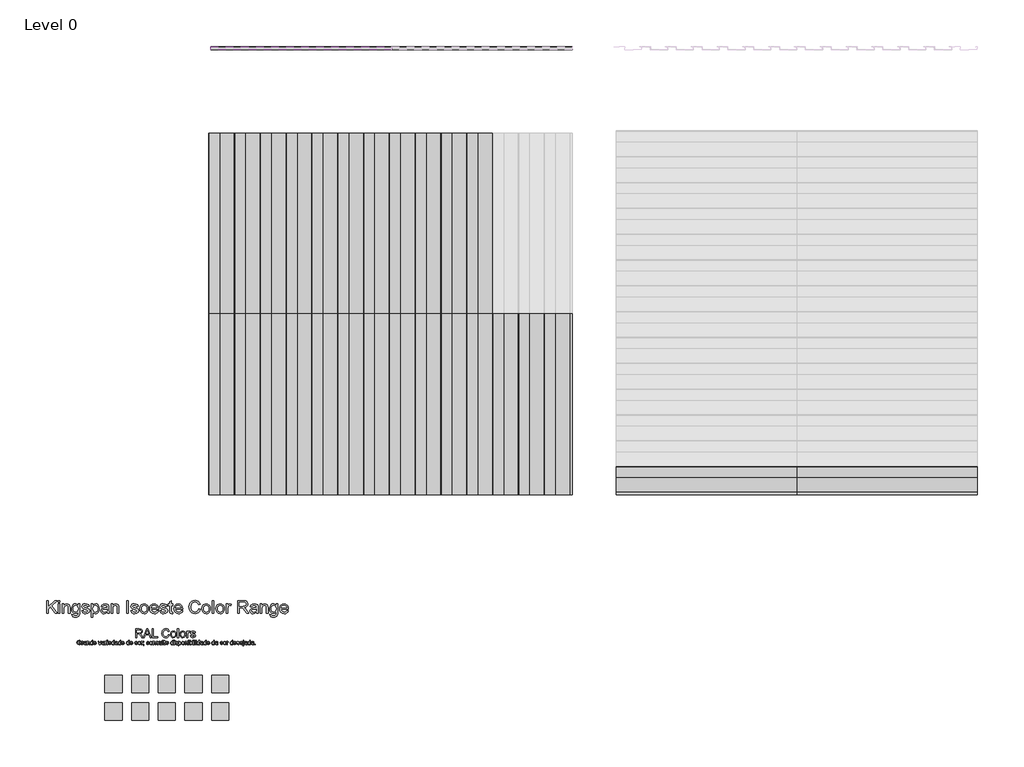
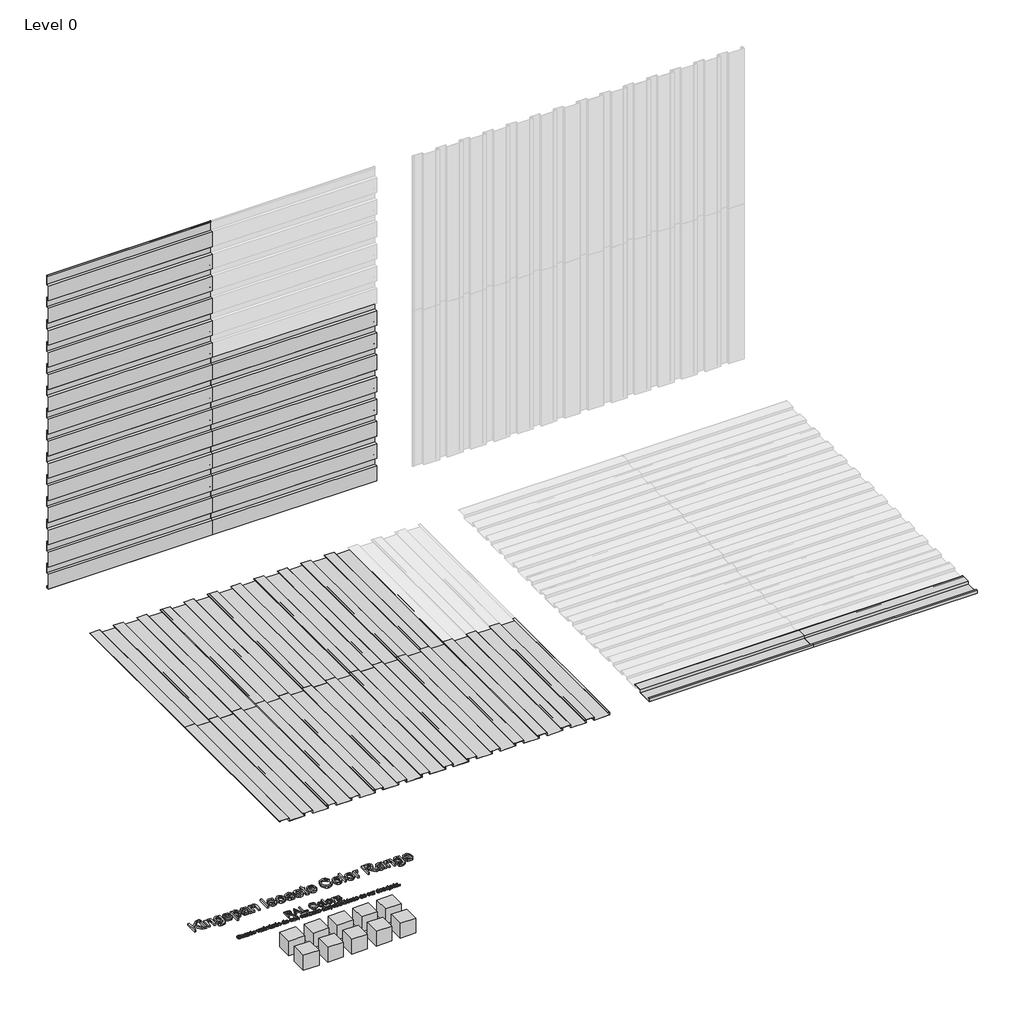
# One storey, part 1 of 2: 60 proxies.
"""IFC4 building model written with IfcOpenShell, lengths in millimetres."""

from ifc_helpers import new_model, si_unit, origin, place, context, project, spatial, transform, mapped, element, save
from components import proxy_32_ks_iso_colour_range_8220f766, proxy_32_ks_iso_colour_range_06d69407, ks_colour_sample_ks_colour_sample_0243efec, mx9_0_standard_panel_ns_4979d104, mx9_0_standard_panel_ns_2f6deb61

model = new_model("IFC4")

# Units and contexts
model_context = context("Model", 3, world=origin())
ifc_project = project(units=[si_unit("LENGTHUNIT", "METRE", prefix="MILLI")], contexts=[model_context])

# Site, building, storey
site = spatial("IfcSite", under=ifc_project)
building = spatial("IfcBuilding", under=site)
storey = spatial("IfcBuildingStorey", under=building, Name="Level 0", Elevation=0.0)

# Proxies
placement = place(None, origin())
proxy_32_ks_iso_colour_range_shape = proxy_32_ks_iso_colour_range_8220f766(model_context)
proxy_32_ks_iso_colour_range_2_shape = proxy_32_ks_iso_colour_range_06d69407(model_context)
element("IfcBuildingElementProxy", 1, Name="32-KS-ISO-Colour Range : Kingspan Isoeste Color Range", ObjectType="32-KS-ISO-Colour Range : Kingspan Isoeste Color Range", at=placement, inside=storey, context=model_context, shape_type="MappedRepresentation", body=[
    mapped(proxy_32_ks_iso_colour_range_shape, transform((-3929.8390717, -2223.0925896, 0.0), x_axis=(1.0, 0.0, 0.0), y_axis=(0.0, 1.0, 0.0), z_axis=(0.0, 0.0, 1.0))),
    mapped(proxy_32_ks_iso_colour_range_2_shape, transform((-3929.8390717, -2223.0925896, 0.0), x_axis=(1.0, 0.0, 0.0), y_axis=(0.0, 1.0, 0.0), z_axis=(0.0, 0.0, 1.0))),
])
ks_colour_sample_ks_colour_sample_shape = ks_colour_sample_ks_colour_sample_0243efec(model_context)
element("IfcBuildingElementProxy", 2, Name="KS_Colour Sample : KS_Colour Sample", ObjectType="KS_Colour Sample : KS_Colour Sample", at=placement, inside=storey, context=model_context, shape_type="MappedRepresentation", body=[
    mapped(ks_colour_sample_ks_colour_sample_shape, transform((-3309.8390717, -2663.0925896, 0.0), x_axis=(1.0, 0.0, 0.0), y_axis=(0.0, 1.0, 0.0), z_axis=(0.0, 0.0, 1.0))),
])
element("IfcBuildingElementProxy", 3, Name="KS_Colour Sample : KS_Colour Sample", ObjectType="KS_Colour Sample : KS_Colour Sample", at=placement, inside=storey, context=model_context, shape_type="MappedRepresentation", body=[
    mapped(ks_colour_sample_ks_colour_sample_shape, transform((-3309.8390717, -2343.0925896, 0.0), x_axis=(1.0, 0.0, 0.0), y_axis=(0.0, 1.0, 0.0), z_axis=(0.0, 0.0, 1.0))),
])
element("IfcBuildingElementProxy", 4, Name="KS_Colour Sample : KS_Colour Sample", ObjectType="KS_Colour Sample : KS_Colour Sample", at=placement, inside=storey, context=model_context, shape_type="MappedRepresentation", body=[
    mapped(ks_colour_sample_ks_colour_sample_shape, transform((-4549.8390717, -2663.0925896, 0.0), x_axis=(1.0, 0.0, 0.0), y_axis=(0.0, 1.0, 0.0), z_axis=(0.0, 0.0, 1.0))),
])
element("IfcBuildingElementProxy", 5, Name="KS_Colour Sample : KS_Colour Sample", ObjectType="KS_Colour Sample : KS_Colour Sample", at=placement, inside=storey, context=model_context, shape_type="MappedRepresentation", body=[
    mapped(ks_colour_sample_ks_colour_sample_shape, transform((-4239.8390717, -2663.0925896, 0.0), x_axis=(1.0, 0.0, 0.0), y_axis=(0.0, 1.0, 0.0), z_axis=(0.0, 0.0, 1.0))),
])
element("IfcBuildingElementProxy", 6, Name="KS_Colour Sample : KS_Colour Sample", ObjectType="KS_Colour Sample : KS_Colour Sample", at=placement, inside=storey, context=model_context, shape_type="MappedRepresentation", body=[
    mapped(ks_colour_sample_ks_colour_sample_shape, transform((-3619.8390717, -2663.0925896, 0.0), x_axis=(1.0, 0.0, 0.0), y_axis=(0.0, 1.0, 0.0), z_axis=(0.0, 0.0, 1.0))),
])
element("IfcBuildingElementProxy", 7, Name="KS_Colour Sample : KS_Colour Sample", ObjectType="KS_Colour Sample : KS_Colour Sample", at=placement, inside=storey, context=model_context, shape_type="MappedRepresentation", body=[
    mapped(ks_colour_sample_ks_colour_sample_shape, transform((-4549.8390717, -2343.0925896, 0.0), x_axis=(1.0, 0.0, 0.0), y_axis=(0.0, 1.0, 0.0), z_axis=(0.0, 0.0, 1.0))),
])
element("IfcBuildingElementProxy", 8, Name="KS_Colour Sample : KS_Colour Sample", ObjectType="KS_Colour Sample : KS_Colour Sample", at=placement, inside=storey, context=model_context, shape_type="MappedRepresentation", body=[
    mapped(ks_colour_sample_ks_colour_sample_shape, transform((-4239.8390717, -2343.0925896, 0.0), x_axis=(1.0, 0.0, 0.0), y_axis=(0.0, 1.0, 0.0), z_axis=(0.0, 0.0, 1.0))),
])
element("IfcBuildingElementProxy", 9, Name="KS_Colour Sample : KS_Colour Sample", ObjectType="KS_Colour Sample : KS_Colour Sample", at=placement, inside=storey, context=model_context, shape_type="MappedRepresentation", body=[
    mapped(ks_colour_sample_ks_colour_sample_shape, transform((-3619.8390717, -2343.0925896, 0.0), x_axis=(1.0, 0.0, 0.0), y_axis=(0.0, 1.0, 0.0), z_axis=(0.0, 0.0, 1.0))),
])
element("IfcBuildingElementProxy", 10, Name="KS_Colour Sample : KS_Colour Sample", ObjectType="KS_Colour Sample : KS_Colour Sample", at=placement, inside=storey, context=model_context, shape_type="MappedRepresentation", body=[
    mapped(ks_colour_sample_ks_colour_sample_shape, transform((-3929.8390717, -2343.0925896, 0.0), x_axis=(1.0, 0.0, 0.0), y_axis=(0.0, 1.0, 0.0), z_axis=(0.0, 0.0, 1.0))),
])
element("IfcBuildingElementProxy", 11, Name="KS_Colour Sample : KS_Colour Sample", ObjectType="KS_Colour Sample : KS_Colour Sample", at=placement, inside=storey, context=model_context, shape_type="MappedRepresentation", body=[
    mapped(ks_colour_sample_ks_colour_sample_shape, transform((-3929.8390717, -2663.0925896, 0.0), x_axis=(1.0, 0.0, 0.0), y_axis=(0.0, 1.0, 0.0), z_axis=(0.0, 0.0, 1.0))),
])
mx9_0_standard_panel_ns_shape = mx9_0_standard_panel_ns_4979d104(model_context)
element("IfcBuildingElementProxy", 12, Name="MX9.0 : Standard Panel_NS", ObjectType="MX9.0 : Standard Panel_NS", at=placement, inside=storey, context=model_context, shape_type="MappedRepresentation", body=[
    mapped(mx9_0_standard_panel_ns_shape, transform((-3417.7637295, 5063.0274074, 1800.0), x_axis=(1.0, 0.0, 0.0), y_axis=(0.0, 0.0, 1.0), z_axis=(0.0, -1.0, 0.0))),
])
element("IfcBuildingElementProxy", 13, Name="MX9.0 : Standard Panel_NS", ObjectType="MX9.0 : Standard Panel_NS", at=placement, inside=storey, context=model_context, shape_type="MappedRepresentation", body=[
    mapped(mx9_0_standard_panel_ns_shape, transform((-1317.7637295, 5063.0274074, 1800.0), x_axis=(1.0, 0.0, 0.0), y_axis=(0.0, 0.0, 1.0), z_axis=(0.0, -1.0, 0.0))),
])
mx9_0_standard_panel_ns_2_shape = mx9_0_standard_panel_ns_2f6deb61(model_context)
element("IfcBuildingElementProxy", 14, Name="MX9.0 : Standard Panel_NS", ObjectType="MX9.0 : Standard Panel_NS", at=placement, inside=storey, context=model_context, shape_type="MappedRepresentation", body=[
    mapped(mx9_0_standard_panel_ns_2_shape, transform((-1017.7637297, -141.6886547, 0.0), x_axis=(0.0, 1.0, 0.0), y_axis=(-1.0, 0.0, 0.0), z_axis=(0.0, 0.0, 1.0))),
])
element("IfcBuildingElementProxy", 15, Name="MX9.0 : Standard Panel_NS", ObjectType="MX9.0 : Standard Panel_NS", at=placement, inside=storey, context=model_context, shape_type="MappedRepresentation", body=[
    mapped(mx9_0_standard_panel_ns_2_shape, transform((-1017.7637297, 1958.3113453, 0.0), x_axis=(0.0, 1.0, 0.0), y_axis=(-1.0, 0.0, 0.0), z_axis=(0.0, 0.0, 1.0))),
])
element("IfcBuildingElementProxy", 16, Name="MX9.0 : Standard Panel_NS", ObjectType="MX9.0 : Standard Panel_NS", at=placement, inside=storey, context=model_context, shape_type="MappedRepresentation", body=[
    mapped(mx9_0_standard_panel_ns_shape, transform((-3417.7637295, 5063.0274074, 0.0), x_axis=(1.0, 0.0, 0.0), y_axis=(0.0, 0.0, 1.0), z_axis=(0.0, -1.0, 0.0))),
])
element("IfcBuildingElementProxy", 17, Name="MX9.0 : Standard Panel_NS", ObjectType="MX9.0 : Standard Panel_NS", at=placement, inside=storey, context=model_context, shape_type="MappedRepresentation", body=[
    mapped(mx9_0_standard_panel_ns_shape, transform((-3417.7637295, 5063.0274074, 2400.0), x_axis=(1.0, 0.0, 0.0), y_axis=(0.0, 0.0, 1.0), z_axis=(0.0, -1.0, 0.0))),
])
element("IfcBuildingElementProxy", 18, Name="MX9.0 : Standard Panel_NS", ObjectType="MX9.0 : Standard Panel_NS", at=placement, inside=storey, context=model_context, shape_type="MappedRepresentation", body=[
    mapped(mx9_0_standard_panel_ns_shape, transform((-1317.7637295, 5063.0274074, 0.0), x_axis=(1.0, 0.0, 0.0), y_axis=(0.0, 0.0, 1.0), z_axis=(0.0, -1.0, 0.0))),
])
element("IfcBuildingElementProxy", 19, Name="MX9.0 : Standard Panel_NS", ObjectType="MX9.0 : Standard Panel_NS", at=placement, inside=storey, context=model_context, shape_type="MappedRepresentation", body=[
    mapped(mx9_0_standard_panel_ns_2_shape, transform((-1617.7637297, -141.6886547, 0.0), x_axis=(0.0, 1.0, 0.0), y_axis=(-1.0, 0.0, 0.0), z_axis=(0.0, 0.0, 1.0))),
])
element("IfcBuildingElementProxy", 20, Name="MX9.0 : Standard Panel_NS", ObjectType="MX9.0 : Standard Panel_NS", at=placement, inside=storey, context=model_context, shape_type="MappedRepresentation", body=[
    mapped(mx9_0_standard_panel_ns_2_shape, transform((1289.7088668, -141.6886547, 0.0), x_axis=(1.0, 0.0, 0.0), y_axis=(0.0, 1.0, 0.0), z_axis=(0.0, 0.0, 1.0))),
])
element("IfcBuildingElementProxy", 21, Name="MX9.0 : Standard Panel_NS", ObjectType="MX9.0 : Standard Panel_NS", at=placement, inside=storey, context=model_context, shape_type="MappedRepresentation", body=[
    mapped(mx9_0_standard_panel_ns_2_shape, transform((-1617.7637297, 1958.3113453, 0.0), x_axis=(0.0, 1.0, 0.0), y_axis=(-1.0, 0.0, 0.0), z_axis=(0.0, 0.0, 1.0))),
])
element("IfcBuildingElementProxy", 22, Name="MX9.0 : Standard Panel_NS", ObjectType="MX9.0 : Standard Panel_NS", at=placement, inside=storey, context=model_context, shape_type="MappedRepresentation", body=[
    mapped(mx9_0_standard_panel_ns_2_shape, transform((3389.7088668, -141.6886547, 0.0), x_axis=(1.0, 0.0, 0.0), y_axis=(0.0, 1.0, 0.0), z_axis=(0.0, 0.0, 1.0))),
])
element("IfcBuildingElementProxy", 23, Name="MX9.0 : Standard Panel_NS", ObjectType="MX9.0 : Standard Panel_NS", at=placement, inside=storey, context=model_context, shape_type="MappedRepresentation", body=[
    mapped(mx9_0_standard_panel_ns_2_shape, transform((782.2362705, -141.6886547, 0.0), x_axis=(0.0, 1.0, 0.0), y_axis=(-1.0, 0.0, 0.0), z_axis=(0.0, 0.0, 1.0))),
])
element("IfcBuildingElementProxy", 24, Name="MX9.0 : Standard Panel_NS", ObjectType="MX9.0 : Standard Panel_NS", at=placement, inside=storey, context=model_context, shape_type="MappedRepresentation", body=[
    mapped(mx9_0_standard_panel_ns_2_shape, transform((-3117.7637295, -141.6886547, 0.0), x_axis=(0.0, 1.0, 0.0), y_axis=(-1.0, 0.0, 0.0), z_axis=(0.0, 0.0, 1.0))),
])
element("IfcBuildingElementProxy", 25, Name="MX9.0 : Standard Panel_NS", ObjectType="MX9.0 : Standard Panel_NS", at=placement, inside=storey, context=model_context, shape_type="MappedRepresentation", body=[
    mapped(mx9_0_standard_panel_ns_2_shape, transform((-717.7637297, -141.6886547, 0.0), x_axis=(0.0, 1.0, 0.0), y_axis=(-1.0, 0.0, 0.0), z_axis=(0.0, 0.0, 1.0))),
])
element("IfcBuildingElementProxy", 26, Name="MX9.0 : Standard Panel_NS", ObjectType="MX9.0 : Standard Panel_NS", at=placement, inside=storey, context=model_context, shape_type="MappedRepresentation", body=[
    mapped(mx9_0_standard_panel_ns_2_shape, transform((-3117.7637295, 1958.3113453, 0.0), x_axis=(0.0, 1.0, 0.0), y_axis=(-1.0, 0.0, 0.0), z_axis=(0.0, 0.0, 1.0))),
])
element("IfcBuildingElementProxy", 27, Name="MX9.0 : Standard Panel_NS", ObjectType="MX9.0 : Standard Panel_NS", at=placement, inside=storey, context=model_context, shape_type="MappedRepresentation", body=[
    mapped(mx9_0_standard_panel_ns_2_shape, transform((-717.7637297, 1958.3113453, 0.0), x_axis=(0.0, 1.0, 0.0), y_axis=(-1.0, 0.0, 0.0), z_axis=(0.0, 0.0, 1.0))),
])
element("IfcBuildingElementProxy", 28, Name="MX9.0 : Standard Panel_NS", ObjectType="MX9.0 : Standard Panel_NS", at=placement, inside=storey, context=model_context, shape_type="MappedRepresentation", body=[
    mapped(mx9_0_standard_panel_ns_shape, transform((-3417.7637295, 5063.0274074, 1500.0), x_axis=(1.0, 0.0, 0.0), y_axis=(0.0, 0.0, 1.0), z_axis=(0.0, -1.0, 0.0))),
])
element("IfcBuildingElementProxy", 29, Name="MX9.0 : Standard Panel_NS", ObjectType="MX9.0 : Standard Panel_NS", at=placement, inside=storey, context=model_context, shape_type="MappedRepresentation", body=[
    mapped(mx9_0_standard_panel_ns_shape, transform((-3417.7637295, 5063.0274074, 3900.0), x_axis=(1.0, 0.0, 0.0), y_axis=(0.0, 0.0, 1.0), z_axis=(0.0, -1.0, 0.0))),
])
element("IfcBuildingElementProxy", 30, Name="MX9.0 : Standard Panel_NS", ObjectType="MX9.0 : Standard Panel_NS", at=placement, inside=storey, context=model_context, shape_type="MappedRepresentation", body=[
    mapped(mx9_0_standard_panel_ns_shape, transform((-1317.7637295, 5063.0274074, 1500.0), x_axis=(1.0, 0.0, 0.0), y_axis=(0.0, 0.0, 1.0), z_axis=(0.0, -1.0, 0.0))),
])
element("IfcBuildingElementProxy", 31, Name="MX9.0 : Standard Panel_NS", ObjectType="MX9.0 : Standard Panel_NS", at=placement, inside=storey, context=model_context, shape_type="MappedRepresentation", body=[
    mapped(mx9_0_standard_panel_ns_shape, transform((-3417.7637295, 5063.0274074, 300.0), x_axis=(1.0, 0.0, 0.0), y_axis=(0.0, 0.0, 1.0), z_axis=(0.0, -1.0, 0.0))),
])
element("IfcBuildingElementProxy", 32, Name="MX9.0 : Standard Panel_NS", ObjectType="MX9.0 : Standard Panel_NS", at=placement, inside=storey, context=model_context, shape_type="MappedRepresentation", body=[
    mapped(mx9_0_standard_panel_ns_shape, transform((-3417.7637295, 5063.0274074, 2700.0), x_axis=(1.0, 0.0, 0.0), y_axis=(0.0, 0.0, 1.0), z_axis=(0.0, -1.0, 0.0))),
])
element("IfcBuildingElementProxy", 33, Name="MX9.0 : Standard Panel_NS", ObjectType="MX9.0 : Standard Panel_NS", at=placement, inside=storey, context=model_context, shape_type="MappedRepresentation", body=[
    mapped(mx9_0_standard_panel_ns_shape, transform((-1317.7637295, 5063.0274074, 300.0), x_axis=(1.0, 0.0, 0.0), y_axis=(0.0, 0.0, 1.0), z_axis=(0.0, -1.0, 0.0))),
])
element("IfcBuildingElementProxy", 34, Name="MX9.0 : Standard Panel_NS", ObjectType="MX9.0 : Standard Panel_NS", at=placement, inside=storey, context=model_context, shape_type="MappedRepresentation", body=[
    mapped(mx9_0_standard_panel_ns_shape, transform((-3417.7637295, 5063.0274074, 600.0), x_axis=(1.0, 0.0, 0.0), y_axis=(0.0, 0.0, 1.0), z_axis=(0.0, -1.0, 0.0))),
])
element("IfcBuildingElementProxy", 35, Name="MX9.0 : Standard Panel_NS", ObjectType="MX9.0 : Standard Panel_NS", at=placement, inside=storey, context=model_context, shape_type="MappedRepresentation", body=[
    mapped(mx9_0_standard_panel_ns_shape, transform((-3417.7637295, 5063.0274074, 3000.0), x_axis=(1.0, 0.0, 0.0), y_axis=(0.0, 0.0, 1.0), z_axis=(0.0, -1.0, 0.0))),
])
element("IfcBuildingElementProxy", 36, Name="MX9.0 : Standard Panel_NS", ObjectType="MX9.0 : Standard Panel_NS", at=placement, inside=storey, context=model_context, shape_type="MappedRepresentation", body=[
    mapped(mx9_0_standard_panel_ns_shape, transform((-1317.7637295, 5063.0274074, 600.0), x_axis=(1.0, 0.0, 0.0), y_axis=(0.0, 0.0, 1.0), z_axis=(0.0, -1.0, 0.0))),
])
element("IfcBuildingElementProxy", 37, Name="MX9.0 : Standard Panel_NS", ObjectType="MX9.0 : Standard Panel_NS", at=placement, inside=storey, context=model_context, shape_type="MappedRepresentation", body=[
    mapped(mx9_0_standard_panel_ns_shape, transform((-3417.7637295, 5063.0274074, 900.0), x_axis=(1.0, 0.0, 0.0), y_axis=(0.0, 0.0, 1.0), z_axis=(0.0, -1.0, 0.0))),
])
element("IfcBuildingElementProxy", 38, Name="MX9.0 : Standard Panel_NS", ObjectType="MX9.0 : Standard Panel_NS", at=placement, inside=storey, context=model_context, shape_type="MappedRepresentation", body=[
    mapped(mx9_0_standard_panel_ns_shape, transform((-3417.7637295, 5063.0274074, 3300.0), x_axis=(1.0, 0.0, 0.0), y_axis=(0.0, 0.0, 1.0), z_axis=(0.0, -1.0, 0.0))),
])
element("IfcBuildingElementProxy", 39, Name="MX9.0 : Standard Panel_NS", ObjectType="MX9.0 : Standard Panel_NS", at=placement, inside=storey, context=model_context, shape_type="MappedRepresentation", body=[
    mapped(mx9_0_standard_panel_ns_shape, transform((-1317.7637295, 5063.0274074, 900.0), x_axis=(1.0, 0.0, 0.0), y_axis=(0.0, 0.0, 1.0), z_axis=(0.0, -1.0, 0.0))),
])
element("IfcBuildingElementProxy", 40, Name="MX9.0 : Standard Panel_NS", ObjectType="MX9.0 : Standard Panel_NS", at=placement, inside=storey, context=model_context, shape_type="MappedRepresentation", body=[
    mapped(mx9_0_standard_panel_ns_shape, transform((-3417.7637295, 5063.0274074, 1200.0), x_axis=(1.0, 0.0, 0.0), y_axis=(0.0, 0.0, 1.0), z_axis=(0.0, -1.0, 0.0))),
])
element("IfcBuildingElementProxy", 41, Name="MX9.0 : Standard Panel_NS", ObjectType="MX9.0 : Standard Panel_NS", at=placement, inside=storey, context=model_context, shape_type="MappedRepresentation", body=[
    mapped(mx9_0_standard_panel_ns_shape, transform((-3417.7637295, 5063.0274074, 3600.0), x_axis=(1.0, 0.0, 0.0), y_axis=(0.0, 0.0, 1.0), z_axis=(0.0, -1.0, 0.0))),
])
element("IfcBuildingElementProxy", 42, Name="MX9.0 : Standard Panel_NS", ObjectType="MX9.0 : Standard Panel_NS", at=placement, inside=storey, context=model_context, shape_type="MappedRepresentation", body=[
    mapped(mx9_0_standard_panel_ns_shape, transform((-1317.7637295, 5063.0274074, 1200.0), x_axis=(1.0, 0.0, 0.0), y_axis=(0.0, 0.0, 1.0), z_axis=(0.0, -1.0, 0.0))),
])
element("IfcBuildingElementProxy", 43, Name="MX9.0 : Standard Panel_NS", ObjectType="MX9.0 : Standard Panel_NS", at=placement, inside=storey, context=model_context, shape_type="MappedRepresentation", body=[
    mapped(mx9_0_standard_panel_ns_shape, transform((-3417.7637295, 5063.0274074, 2100.0), x_axis=(1.0, 0.0, 0.0), y_axis=(0.0, 0.0, 1.0), z_axis=(0.0, -1.0, 0.0))),
])
element("IfcBuildingElementProxy", 44, Name="MX9.0 : Standard Panel_NS", ObjectType="MX9.0 : Standard Panel_NS", at=placement, inside=storey, context=model_context, shape_type="MappedRepresentation", body=[
    mapped(mx9_0_standard_panel_ns_shape, transform((-1317.7637295, 5063.0274074, 2100.0), x_axis=(1.0, 0.0, 0.0), y_axis=(0.0, 0.0, 1.0), z_axis=(0.0, -1.0, 0.0))),
])
element("IfcBuildingElementProxy", 45, Name="MX9.0 : Standard Panel_NS", ObjectType="MX9.0 : Standard Panel_NS", at=placement, inside=storey, context=model_context, shape_type="MappedRepresentation", body=[
    mapped(mx9_0_standard_panel_ns_2_shape, transform((482.2362703, -141.6886547, 0.0), x_axis=(0.0, 1.0, 0.0), y_axis=(-1.0, 0.0, 0.0), z_axis=(0.0, 0.0, 1.0))),
])
element("IfcBuildingElementProxy", 46, Name="MX9.0 : Standard Panel_NS", ObjectType="MX9.0 : Standard Panel_NS", at=placement, inside=storey, context=model_context, shape_type="MappedRepresentation", body=[
    mapped(mx9_0_standard_panel_ns_2_shape, transform((-1917.7637297, -141.6886547, 0.0), x_axis=(0.0, 1.0, 0.0), y_axis=(-1.0, 0.0, 0.0), z_axis=(0.0, 0.0, 1.0))),
])
element("IfcBuildingElementProxy", 47, Name="MX9.0 : Standard Panel_NS", ObjectType="MX9.0 : Standard Panel_NS", at=placement, inside=storey, context=model_context, shape_type="MappedRepresentation", body=[
    mapped(mx9_0_standard_panel_ns_2_shape, transform((-1917.7637297, 1958.3113453, 0.0), x_axis=(0.0, 1.0, 0.0), y_axis=(-1.0, 0.0, 0.0), z_axis=(0.0, 0.0, 1.0))),
])
element("IfcBuildingElementProxy", 48, Name="MX9.0 : Standard Panel_NS", ObjectType="MX9.0 : Standard Panel_NS", at=placement, inside=storey, context=model_context, shape_type="MappedRepresentation", body=[
    mapped(mx9_0_standard_panel_ns_2_shape, transform((182.2362703, -141.6886547, 0.0), x_axis=(0.0, 1.0, 0.0), y_axis=(-1.0, 0.0, 0.0), z_axis=(0.0, 0.0, 1.0))),
])
element("IfcBuildingElementProxy", 49, Name="MX9.0 : Standard Panel_NS", ObjectType="MX9.0 : Standard Panel_NS", at=placement, inside=storey, context=model_context, shape_type="MappedRepresentation", body=[
    mapped(mx9_0_standard_panel_ns_2_shape, transform((-2217.7637297, -141.6886547, 0.0), x_axis=(0.0, 1.0, 0.0), y_axis=(-1.0, 0.0, 0.0), z_axis=(0.0, 0.0, 1.0))),
])
element("IfcBuildingElementProxy", 50, Name="MX9.0 : Standard Panel_NS", ObjectType="MX9.0 : Standard Panel_NS", at=placement, inside=storey, context=model_context, shape_type="MappedRepresentation", body=[
    mapped(mx9_0_standard_panel_ns_2_shape, transform((-2217.7637297, 1958.3113453, 0.0), x_axis=(0.0, 1.0, 0.0), y_axis=(-1.0, 0.0, 0.0), z_axis=(0.0, 0.0, 1.0))),
])
element("IfcBuildingElementProxy", 51, Name="MX9.0 : Standard Panel_NS", ObjectType="MX9.0 : Standard Panel_NS", at=placement, inside=storey, context=model_context, shape_type="MappedRepresentation", body=[
    mapped(mx9_0_standard_panel_ns_2_shape, transform((-117.7637297, -141.6886547, 0.0), x_axis=(0.0, 1.0, 0.0), y_axis=(-1.0, 0.0, 0.0), z_axis=(0.0, 0.0, 1.0))),
])
element("IfcBuildingElementProxy", 52, Name="MX9.0 : Standard Panel_NS", ObjectType="MX9.0 : Standard Panel_NS", at=placement, inside=storey, context=model_context, shape_type="MappedRepresentation", body=[
    mapped(mx9_0_standard_panel_ns_2_shape, transform((-2517.7637297, -141.6886547, 0.0), x_axis=(0.0, 1.0, 0.0), y_axis=(-1.0, 0.0, 0.0), z_axis=(0.0, 0.0, 1.0))),
])
element("IfcBuildingElementProxy", 53, Name="MX9.0 : Standard Panel_NS", ObjectType="MX9.0 : Standard Panel_NS", at=placement, inside=storey, context=model_context, shape_type="MappedRepresentation", body=[
    mapped(mx9_0_standard_panel_ns_2_shape, transform((-2517.7637297, 1958.3113453, 0.0), x_axis=(0.0, 1.0, 0.0), y_axis=(-1.0, 0.0, 0.0), z_axis=(0.0, 0.0, 1.0))),
])
element("IfcBuildingElementProxy", 54, Name="MX9.0 : Standard Panel_NS", ObjectType="MX9.0 : Standard Panel_NS", at=placement, inside=storey, context=model_context, shape_type="MappedRepresentation", body=[
    mapped(mx9_0_standard_panel_ns_2_shape, transform((-117.7637297, 1958.3113453, 0.0), x_axis=(0.0, 1.0, 0.0), y_axis=(-1.0, 0.0, 0.0), z_axis=(0.0, 0.0, 1.0))),
])
element("IfcBuildingElementProxy", 55, Name="MX9.0 : Standard Panel_NS", ObjectType="MX9.0 : Standard Panel_NS", at=placement, inside=storey, context=model_context, shape_type="MappedRepresentation", body=[
    mapped(mx9_0_standard_panel_ns_2_shape, transform((-417.7637297, -141.6886547, 0.0), x_axis=(0.0, 1.0, 0.0), y_axis=(-1.0, 0.0, 0.0), z_axis=(0.0, 0.0, 1.0))),
])
element("IfcBuildingElementProxy", 56, Name="MX9.0 : Standard Panel_NS", ObjectType="MX9.0 : Standard Panel_NS", at=placement, inside=storey, context=model_context, shape_type="MappedRepresentation", body=[
    mapped(mx9_0_standard_panel_ns_2_shape, transform((-2817.7637297, -141.6886547, 0.0), x_axis=(0.0, 1.0, 0.0), y_axis=(-1.0, 0.0, 0.0), z_axis=(0.0, 0.0, 1.0))),
])
element("IfcBuildingElementProxy", 57, Name="MX9.0 : Standard Panel_NS", ObjectType="MX9.0 : Standard Panel_NS", at=placement, inside=storey, context=model_context, shape_type="MappedRepresentation", body=[
    mapped(mx9_0_standard_panel_ns_2_shape, transform((-2817.7637297, 1958.3113453, 0.0), x_axis=(0.0, 1.0, 0.0), y_axis=(-1.0, 0.0, 0.0), z_axis=(0.0, 0.0, 1.0))),
])
element("IfcBuildingElementProxy", 58, Name="MX9.0 : Standard Panel_NS", ObjectType="MX9.0 : Standard Panel_NS", at=placement, inside=storey, context=model_context, shape_type="MappedRepresentation", body=[
    mapped(mx9_0_standard_panel_ns_2_shape, transform((-417.7637297, 1958.3113453, 0.0), x_axis=(0.0, 1.0, 0.0), y_axis=(-1.0, 0.0, 0.0), z_axis=(0.0, 0.0, 1.0))),
])
element("IfcBuildingElementProxy", 59, Name="MX9.0 : Standard Panel_NS", ObjectType="MX9.0 : Standard Panel_NS", at=placement, inside=storey, context=model_context, shape_type="MappedRepresentation", body=[
    mapped(mx9_0_standard_panel_ns_2_shape, transform((-1317.7637297, -141.6886547, 0.0), x_axis=(0.0, 1.0, 0.0), y_axis=(-1.0, 0.0, 0.0), z_axis=(0.0, 0.0, 1.0))),
])
element("IfcBuildingElementProxy", 60, Name="MX9.0 : Standard Panel_NS", ObjectType="MX9.0 : Standard Panel_NS", at=placement, inside=storey, context=model_context, shape_type="MappedRepresentation", body=[
    mapped(mx9_0_standard_panel_ns_2_shape, transform((-1317.7637297, 1958.3113453, 0.0), x_axis=(0.0, 1.0, 0.0), y_axis=(-1.0, 0.0, 0.0), z_axis=(0.0, 0.0, 1.0))),
])

save(model, "model.ifc")
